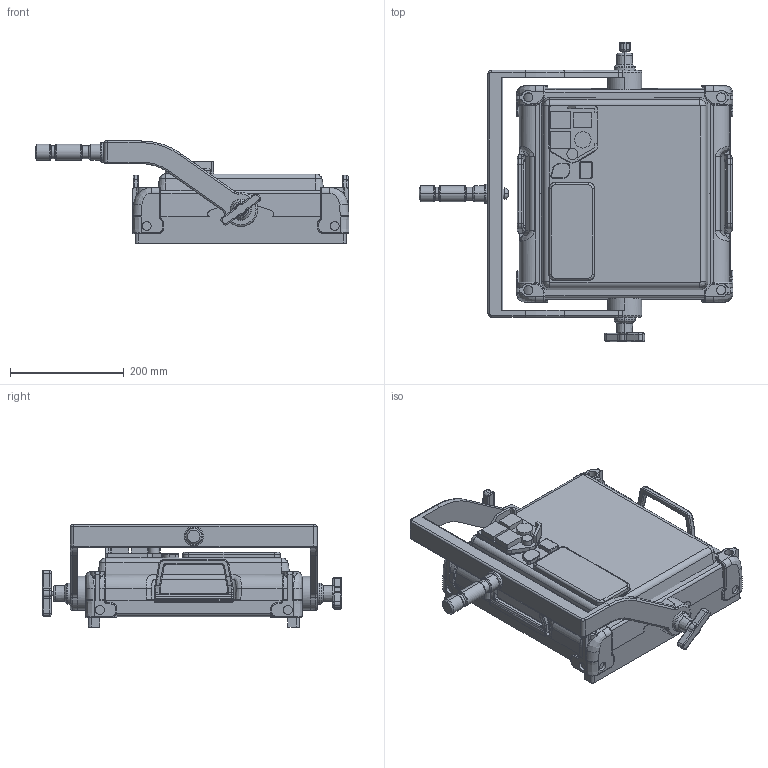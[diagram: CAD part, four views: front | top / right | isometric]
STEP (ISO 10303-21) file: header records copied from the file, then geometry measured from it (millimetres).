
FILE_DESCRIPTION((''),'2;1');
FILE_NAME('V4_SIMPLIFY_YOKE_TOWARD_BACK','2022-02-09T14:18:26',('Evan'),(''),'CREO PARAMETRIC BY PTC INC, 2019010','CREO PARAMETRIC BY PTC INC, 2019010','');
FILE_SCHEMA(('CONFIG_CONTROL_DESIGN'));
Length unit declared in the file: millimetre
Products named in the file (1): V4_SIMPLIFY_YOKE_TOWARD_BACK
Bounding box: 551.02 x 525 x 179.25 mm (x, y, z)
Volume: 14155080.3 mm3; surface area: 722820.1 mm2
Topology: 1 solids, 1 shells, 1013 faces, 2543 edges, 1549 vertices
Faces by surface type: cylinder 394, plane 272, torus 186, bspline 117, cone 36, extrusion 8
Entity records: 35056 total; most frequent: CARTESIAN_POINT 11237, ORIENTED_EDGE 5086, DIRECTION 4987, EDGE_CURVE 2543, AXIS2_PLACEMENT_3D 1951, VERTEX_POINT 1549, VECTOR 1085, LINE 1077
